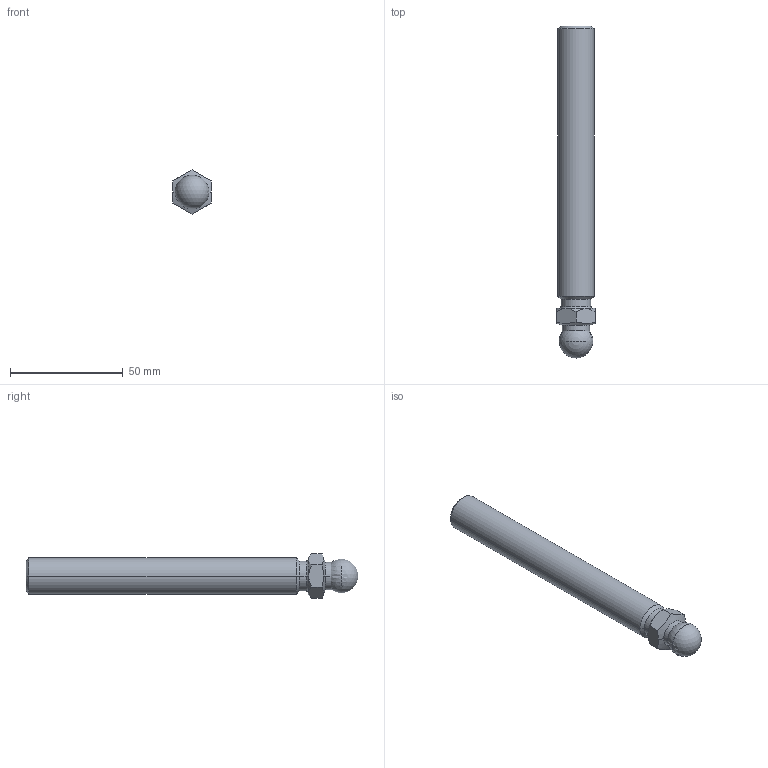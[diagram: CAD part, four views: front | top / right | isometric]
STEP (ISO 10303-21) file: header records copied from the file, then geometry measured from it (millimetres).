
FILE_DESCRIPTION(('STEP AP214'),'1');
FILE_NAME('C:/Program Files (x86)/Trace Software/PartsXML Tools/RobotPartsAuto/FATH/CAD/Temp/FATH_098DM16125M.stp','2016-05-30T13:55:03',('TraceParts'),('TraceParts S.A.'),'Spatial InterOp 3D',' ',' ');
FILE_SCHEMA(('automotive_design'));
Length unit declared in the file: millimetre
Products named in the file (1): SW 17
Bounding box: 17 x 146.95 x 19.63 mm (x, y, z)
Volume: 28452 mm3; surface area: 7688.4 mm2
Topology: 1 solids, 1 shells, 26 faces, 62 edges, 36 vertices
Faces by surface type: cone 8, plane 8, cylinder 6, sphere 2, torus 2
Entity records: 1093 total; most frequent: CARTESIAN_POINT 293, DIRECTION 118, ORIENTED_EDGE 116, EDGE_CURVE 58, AXIS2_PLACEMENT_3D 49, VERTEX_POINT 36, EDGE_LOOP 28, STYLED_ITEM 27
